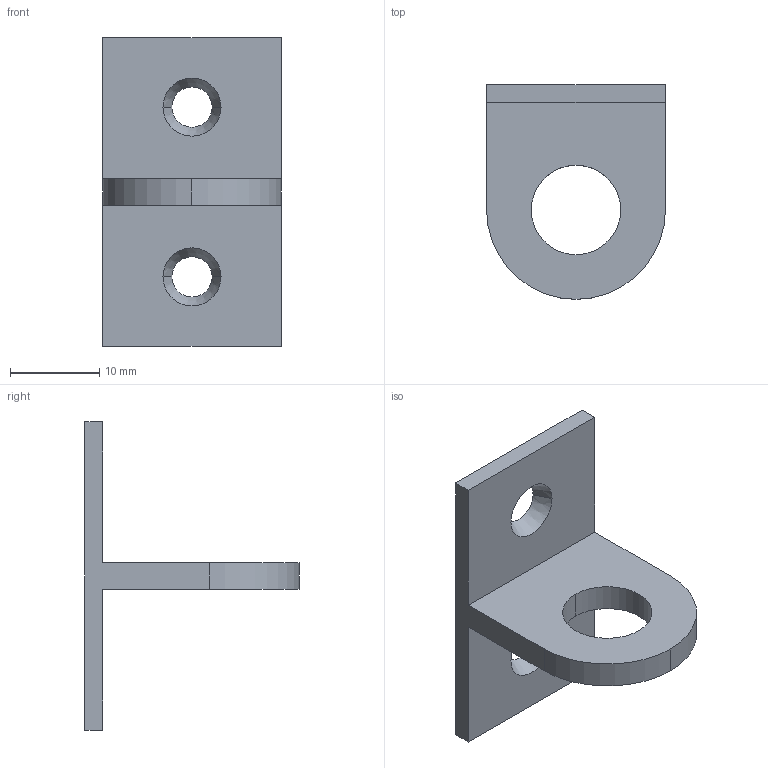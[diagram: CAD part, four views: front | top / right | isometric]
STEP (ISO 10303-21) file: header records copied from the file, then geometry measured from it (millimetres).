
FILE_DESCRIPTION((''),'2;1');
FILE_NAME('6029.01.stp','2015-07-17T16:03:23',(''),(''),'Mechanical Desktop 2006','Mechanical Desktop 2006',', , ');
FILE_SCHEMA(('CONFIG_CONTROL_DESIGN'));
Length unit declared in the file: millimetre
Products named in the file (1): 6029.01
Bounding box: 20 x 24 x 34.5 mm (x, y, z)
Volume: 2239.5 mm3; surface area: 2414.7 mm2
Topology: 1 solids, 1 shells, 17 faces, 45 edges, 30 vertices
Faces by surface type: plane 9, cylinder 4, cone 4
Entity records: 642 total; most frequent: DIRECTION 97, CARTESIAN_POINT 93, ORIENTED_EDGE 90, EDGE_CURVE 45, AXIS2_PLACEMENT_3D 34, VERTEX_POINT 30, VECTOR 29, LINE 29
